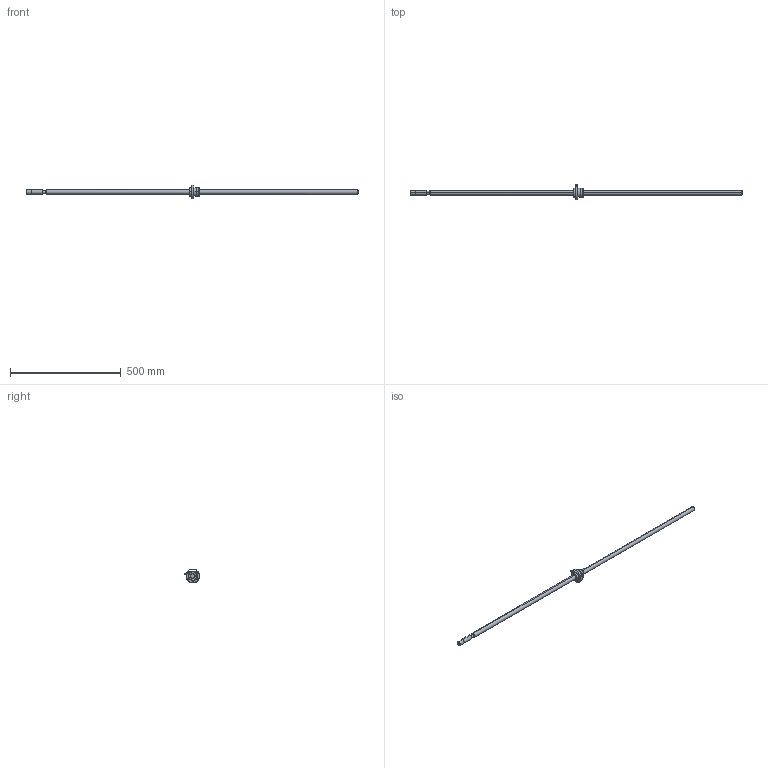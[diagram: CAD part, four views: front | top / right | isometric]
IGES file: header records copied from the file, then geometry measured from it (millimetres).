
Global section: file name: No Iges File Name specified; native system: AutoDesk Inventor R10; preprocessor: AutoDesk Inventor Iges Exporter R10; author: No Author specified; organization: No Organization specified; date: 20101224.134353; units: millimetre
Bounding box: 1500 x 69.81 x 62 mm (x, y, z)
Surface area: 110483.4 mm2 (no closed solid volume)
Topology: 0 solids, 0 shells, 74 faces, 483 edges, 479 vertices
Faces by surface type: bspline 74
